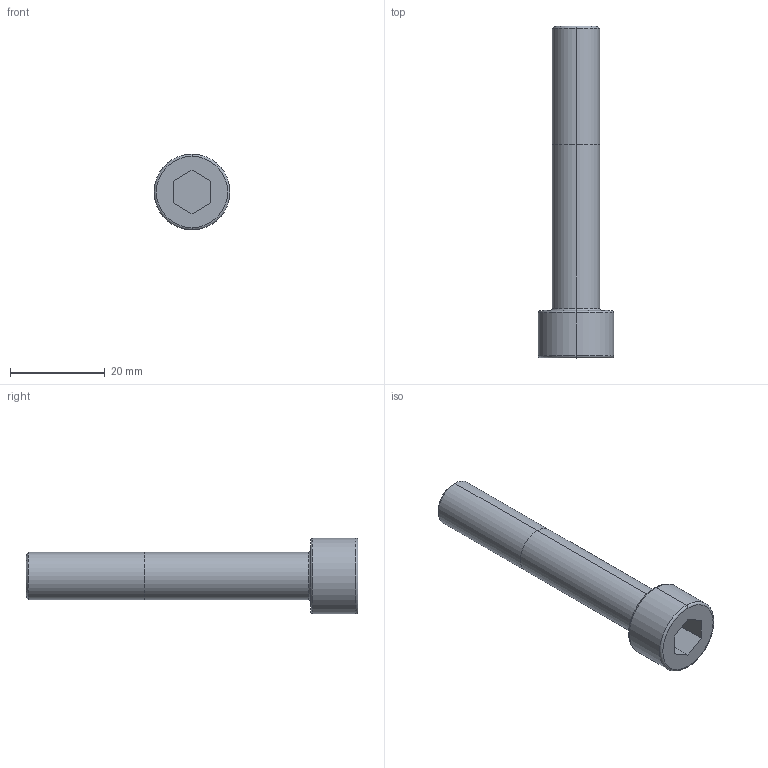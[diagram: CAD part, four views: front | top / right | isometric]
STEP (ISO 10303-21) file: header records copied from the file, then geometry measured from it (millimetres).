
FILE_DESCRIPTION (( 'STEP AP214' ), '1' );
FILE_NAME ('M_10X060.STEP', '2016-03-08T00:40:11', ( '' ), ( '' ), 'SwSTEP 2.0', 'SolidWorks 2014', '' );
FILE_SCHEMA (( 'AUTOMOTIVE_DESIGN' ));
Length unit declared in the file: millimetre
Products named in the file (1): M_10X060
Bounding box: 16 x 70 x 16 mm (x, y, z)
Volume: 6272.8 mm3; surface area: 2973.6 mm2
Topology: 1 solids, 1 shells, 25 faces, 52 edges, 32 vertices
Faces by surface type: plane 11, torus 6, cylinder 6, cone 2
Entity records: 746 total; most frequent: DIRECTION 130, CARTESIAN_POINT 110, ORIENTED_EDGE 104, EDGE_CURVE 52, AXIS2_PLACEMENT_3D 52, VERTEX_POINT 32, EDGE_LOOP 28, VECTOR 26
